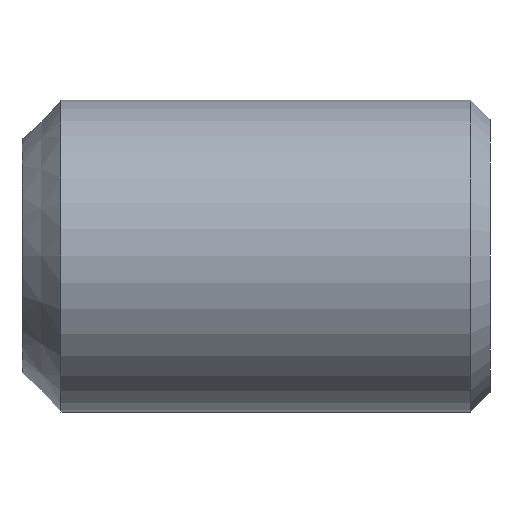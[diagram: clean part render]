
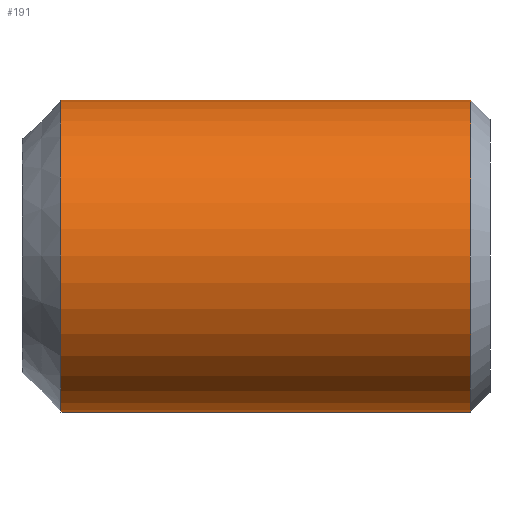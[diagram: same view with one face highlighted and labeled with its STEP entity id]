
A CAD part, front view. The second image highlights one B-rep face of the part: STEP entity #191.
In plain terms, the highlighted cylindrical face has radius 4 mm (diameter 8 mm), a full revolution.
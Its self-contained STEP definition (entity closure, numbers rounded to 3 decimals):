
#25=CYLINDRICAL_SURFACE('',#225,4.);
#27=FACE_OUTER_BOUND('',#39,.T.);
#39=EDGE_LOOP('',(#142,#143,#144,#145));
#52=LINE('',#303,#73);
#73=VECTOR('',#251,4.);
#94=CIRCLE('',#224,4.);
#95=CIRCLE('',#226,4.);
#98=VERTEX_POINT('',#297);
#99=VERTEX_POINT('',#301);
#115=EDGE_CURVE('',#98,#98,#94,.T.);
#116=EDGE_CURVE('',#99,#99,#95,.T.);
#117=EDGE_CURVE('',#99,#98,#52,.T.);
#142=ORIENTED_EDGE('',*,*,#116,.F.);
#143=ORIENTED_EDGE('',*,*,#117,.T.);
#144=ORIENTED_EDGE('',*,*,#115,.F.);
#145=ORIENTED_EDGE('',*,*,#117,.F.);
#191=ADVANCED_FACE('',(#27),#25,.T.);
#224=AXIS2_PLACEMENT_3D('',#299,#245,#246);
#225=AXIS2_PLACEMENT_3D('',#300,#247,#248);
#226=AXIS2_PLACEMENT_3D('',#302,#249,#250);
#245=DIRECTION('center_axis',(-1.,0.,0.));
#246=DIRECTION('ref_axis',(0.,-1.,0.));
#247=DIRECTION('center_axis',(1.,0.,0.));
#248=DIRECTION('ref_axis',(0.,-1.,0.));
#249=DIRECTION('center_axis',(1.,0.,0.));
#250=DIRECTION('ref_axis',(0.,-1.,0.));
#251=DIRECTION('',(-1.,0.,0.));
#297=CARTESIAN_POINT('',(1.,4.,0.));
#299=CARTESIAN_POINT('Origin',(1.,0.,0.));
#300=CARTESIAN_POINT('Origin',(0.,0.,0.));
#301=CARTESIAN_POINT('',(11.5,4.,0.));
#302=CARTESIAN_POINT('Origin',(11.5,0.,0.));
#303=CARTESIAN_POINT('',(0.,4.,0.));
